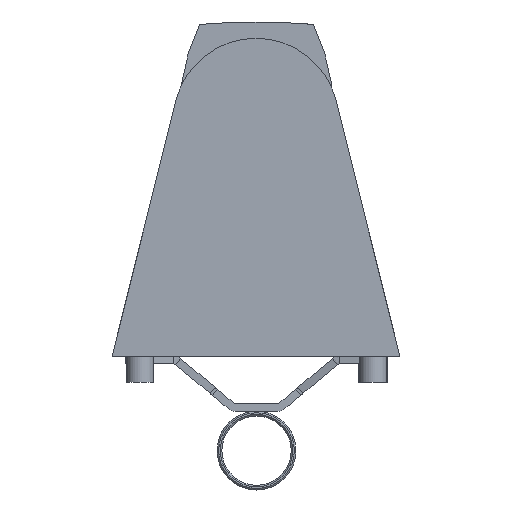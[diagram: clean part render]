
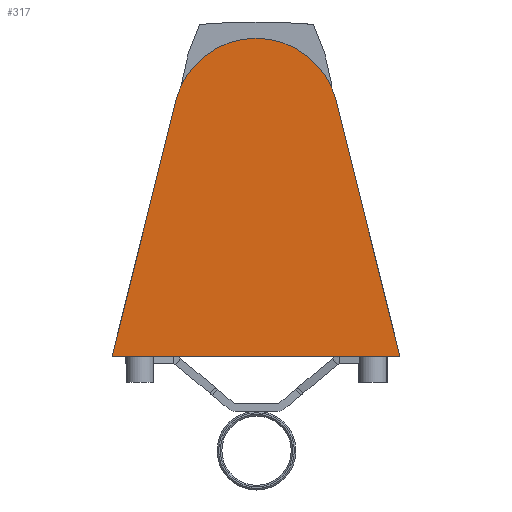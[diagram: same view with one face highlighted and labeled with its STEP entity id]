
A CAD part, left-side view. The second image highlights one B-rep face of the part: STEP entity #317.
In plain terms, the highlighted planar face has unit normal (-1, 0, 0).
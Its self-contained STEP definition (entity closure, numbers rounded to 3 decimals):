
#317 = ADVANCED_FACE( '', ( #660 ), #661, .T. );
#660 = FACE_OUTER_BOUND( '', #1084, .T. );
#661 = PLANE( '', #1085 );
#1084 = EDGE_LOOP( '', ( #1632, #1633, #1634, #1635 ) );
#1085 = AXIS2_PLACEMENT_3D( '', #1636, #1637, #1638 );
#1632 = ORIENTED_EDGE( '', *, *, #2369, .T. );
#1633 = ORIENTED_EDGE( '', *, *, #2370, .T. );
#1634 = ORIENTED_EDGE( '', *, *, #2338, .T. );
#1635 = ORIENTED_EDGE( '', *, *, #2371, .T. );
#1636 = CARTESIAN_POINT( '', ( -505., 0.335, 147.625 ) );
#1637 = DIRECTION( '', ( -1., 0., 0. ) );
#1638 = DIRECTION( '', ( 0., -1., 0. ) );
#2338 = EDGE_CURVE( '', #2704, #2713, #2715, .T. );
#2369 = EDGE_CURVE( '', #2766, #2767, #2768, .T. );
#2370 = EDGE_CURVE( '', #2767, #2704, #2769, .T. );
#2371 = EDGE_CURVE( '', #2713, #2766, #2770, .T. );
#2704 = VERTEX_POINT( '', #3192 );
#2713 = VERTEX_POINT( '', #3206 );
#2715 = LINE( '', #3209, #3210 );
#2766 = VERTEX_POINT( '', #3273 );
#2767 = VERTEX_POINT( '', #3274 );
#2768 = LINE( '', #3275, #3276 );
#2769 = CIRCLE( '', #3277, 52.459 );
#2770 = LINE( '', #3278, #3279 );
#3192 = CARTESIAN_POINT( '', ( -505., 51.236, 160.316 ) );
#3206 = CARTESIAN_POINT( '', ( -505., 91.607, -1.602 ) );
#3209 = CARTESIAN_POINT( '', ( -505., 51.236, 160.316 ) );
#3210 = VECTOR( '', #3754, 1000. );
#3273 = CARTESIAN_POINT( '', ( -505., -90.936, -1.602 ) );
#3274 = CARTESIAN_POINT( '', ( -505., -50.565, 160.316 ) );
#3275 = CARTESIAN_POINT( '', ( -505., -90.936, -1.602 ) );
#3276 = VECTOR( '', #3797, 1000. );
#3277 = AXIS2_PLACEMENT_3D( '', #3798, #3799, #3800 );
#3278 = CARTESIAN_POINT( '', ( -505., -90.936, -1.602 ) );
#3279 = VECTOR( '', #3801, 1000. );
#3754 = DIRECTION( '', ( 0., 0.242, -0.97 ) );
#3797 = DIRECTION( '', ( 0., 0.242, 0.97 ) );
#3798 = CARTESIAN_POINT( '', ( -505., 0.335, 147.625 ) );
#3799 = DIRECTION( '', ( -1., 0., 0. ) );
#3800 = DIRECTION( '', ( 0., 1., 0. ) );
#3801 = DIRECTION( '', ( 0., -1., 0. ) );
